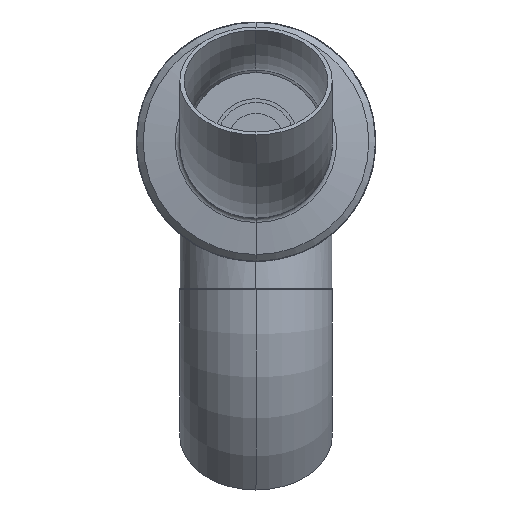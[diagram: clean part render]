
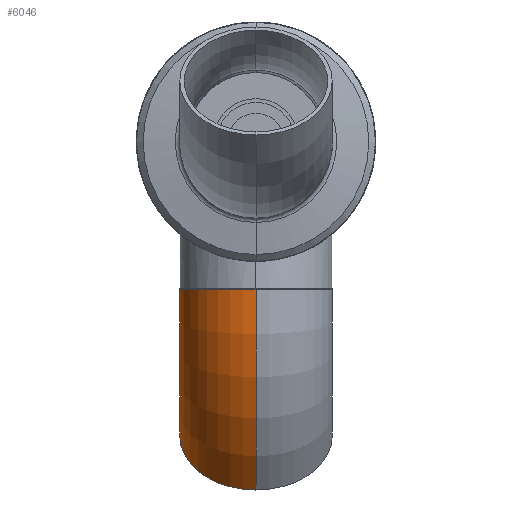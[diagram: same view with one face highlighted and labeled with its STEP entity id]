
A CAD part, front view. The second image highlights one B-rep face of the part: STEP entity #6046.
In plain terms, the highlighted toroidal (fillet/blend) face has major radius 190 mm and minor radius 69.85 mm.
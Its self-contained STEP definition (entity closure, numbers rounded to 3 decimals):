
#40 = EDGE_CURVE ( 'NONE', #899, #8775, #7031, .T. ) ;
#397 = ORIENTED_EDGE ( 'NONE', *, *, #40, .T. ) ;
#899 = VERTEX_POINT ( 'NONE', #7721 ) ;
#1117 = EDGE_CURVE ( 'NONE', #2180, #899, #7783, .T. ) ;
#1466 = ORIENTED_EDGE ( 'NONE', *, *, #1117, .T. ) ;
#1663 = FACE_OUTER_BOUND ( 'NONE', #6080, .T. ) ;
#1666 = TOROIDAL_SURFACE ( 'NONE', #1667, 190., 69.85 ) ;
#1667 = AXIS2_PLACEMENT_3D ( 'NONE', #1668, #1669, #1670 ) ;
#1668 = CARTESIAN_POINT ( 'NONE',  ( 0., -190., 0. ) ) ;
#1669 = DIRECTION ( 'NONE',  ( 0., 0., 1. ) ) ;
#1670 = DIRECTION ( 'NONE',  ( 1., 0., 0. ) ) ;
#1879 = CIRCLE ( 'NONE', #1880, 120.15 ) ;
#1880 = AXIS2_PLACEMENT_3D ( 'NONE', #1881, #1882, #1883 ) ;
#1881 = CARTESIAN_POINT ( 'NONE',  ( 0., -190., 0. ) ) ;
#1882 = DIRECTION ( 'NONE',  ( 0., 0., 1. ) ) ;
#1883 = DIRECTION ( 'NONE',  ( 1., 0., 0. ) ) ;
#1965 = VERTEX_POINT ( 'NONE', #8326 ) ;
#2180 = VERTEX_POINT ( 'NONE', #8539 ) ;
#2363 = EDGE_CURVE ( 'NONE', #2180, #1965, #8583, .T. ) ;
#3426 = CARTESIAN_POINT ( 'NONE',  ( 0., -69.85, 0. ) ) ;
#5979 = ORIENTED_EDGE ( 'NONE', *, *, #2363, .F. ) ;
#6046 = ADVANCED_FACE ( 'NONE', ( #1663 ), #1666, .T. ) ;
#6080 = EDGE_LOOP ( 'NONE', ( #5979, #1466, #397, #8273 ) ) ;
#7031 = CIRCLE ( 'NONE', #7032, 69.85 ) ;
#7032 = AXIS2_PLACEMENT_3D ( 'NONE', #7033, #7034, #7035 ) ;
#7033 = CARTESIAN_POINT ( 'NONE',  ( 0., 0., 0. ) ) ;
#7034 = DIRECTION ( 'NONE',  ( 1., 0., 0. ) ) ;
#7035 = DIRECTION ( 'NONE',  ( 0., 0., -1. ) ) ;
#7721 = CARTESIAN_POINT ( 'NONE',  ( 0., 69.85, 0. ) ) ;
#7783 = CIRCLE ( 'NONE', #7784, 259.85 ) ;
#7784 = AXIS2_PLACEMENT_3D ( 'NONE', #7785, #7786, #7787 ) ;
#7785 = CARTESIAN_POINT ( 'NONE',  ( 0., -190., 0. ) ) ;
#7786 = DIRECTION ( 'NONE',  ( 0., 0., 1. ) ) ;
#7787 = DIRECTION ( 'NONE',  ( 1., 0., 0. ) ) ;
#7910 = EDGE_CURVE ( 'NONE', #1965, #8775, #1879, .T. ) ;
#8273 = ORIENTED_EDGE ( 'NONE', *, *, #7910, .F. ) ;
#8326 = CARTESIAN_POINT ( 'NONE',  ( 84.959, -105.041, 0. ) ) ;
#8539 = CARTESIAN_POINT ( 'NONE',  ( 183.742, -6.258, 0. ) ) ;
#8583 = CIRCLE ( 'NONE', #8584, 69.85 ) ;
#8584 = AXIS2_PLACEMENT_3D ( 'NONE', #8585, #8586, #8587 ) ;
#8585 = CARTESIAN_POINT ( 'NONE',  ( 134.35, -55.65, 0. ) ) ;
#8586 = DIRECTION ( 'NONE',  ( 0.707, -0.707, 0. ) ) ;
#8587 = DIRECTION ( 'NONE',  ( 0., 0., -1. ) ) ;
#8775 = VERTEX_POINT ( 'NONE', #3426 ) ;
